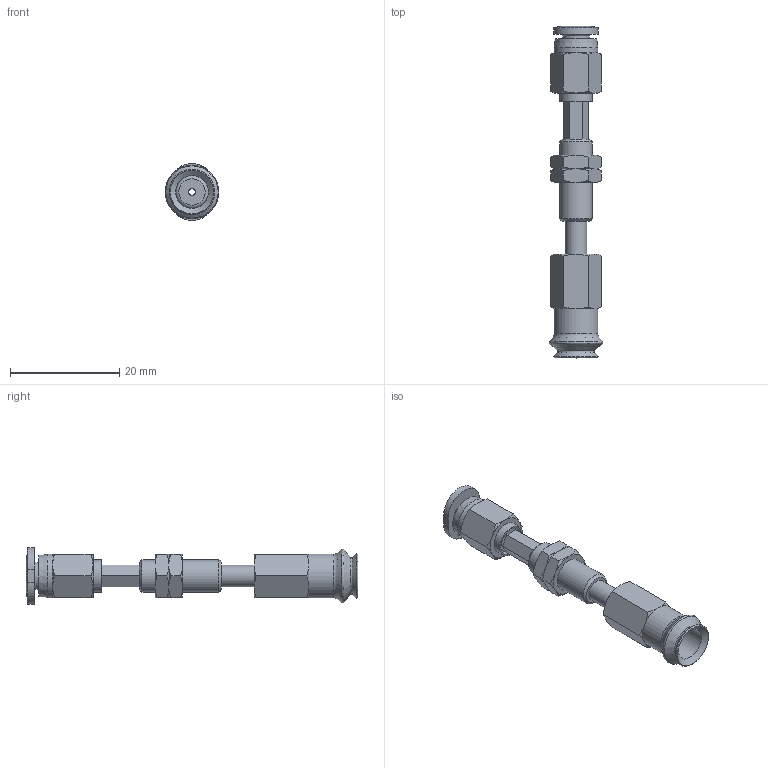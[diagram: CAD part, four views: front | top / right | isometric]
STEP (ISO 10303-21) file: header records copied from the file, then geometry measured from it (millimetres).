
FILE_DESCRIPTION(('STEP AP203'),'1');
FILE_NAME('-O.stp','2025-08-27T07:24:00',(' '),(' '),'Spatial InterOp 3D',' ',' ');
FILE_SCHEMA(('CONFIG_CONTROL_DESIGN'));
Length unit declared in the file: millimetre
Products named in the file (7): BNABPJTS-8-6-※-O; ADAPTER; NAPCTS-7-6-MBODY; NUT-NAPJ-8-6-s; NAPJTS-8-6-FBODY; BPJG-8-※; PC-C_04-M3
Assembly tree (7 placements, depth 2):
  BNABPJTS-8-6-※-O
    ADAPTER
    NAPCTS-7-6-MBODY
    NUT-NAPJ-8-6-s  x2
    NAPJTS-8-6-FBODY
    BPJG-8-※
    PC-C_04-M3
Bounding box: 9.8 x 60.77 x 10.4 mm (x, y, z)
Volume: 1567.7 mm3; surface area: 3086.9 mm2
Topology: 6 solids, 8 shells, 165 faces, 340 edges, 201 vertices
Faces by surface type: cone 65, plane 62, cylinder 22, torus 9, bspline 4, revolution 3
Full cylindrical faces by diameter (mm): 1.2 x2, 2.459 x1, 2.5 x2, 3 x1, 4 x4, 4.9 x1, 5.188 x2, 6 x4, 6.1 x1, 8 x2
Entity records: 4140 total; most frequent: CARTESIAN_POINT 1118, DIRECTION 561, ORIENTED_EDGE 478, AXIS2_PLACEMENT_3D 252, EDGE_CURVE 240, EDGE_LOOP 207, VERTEX_POINT 165, FACE_OUTER_BOUND 110
